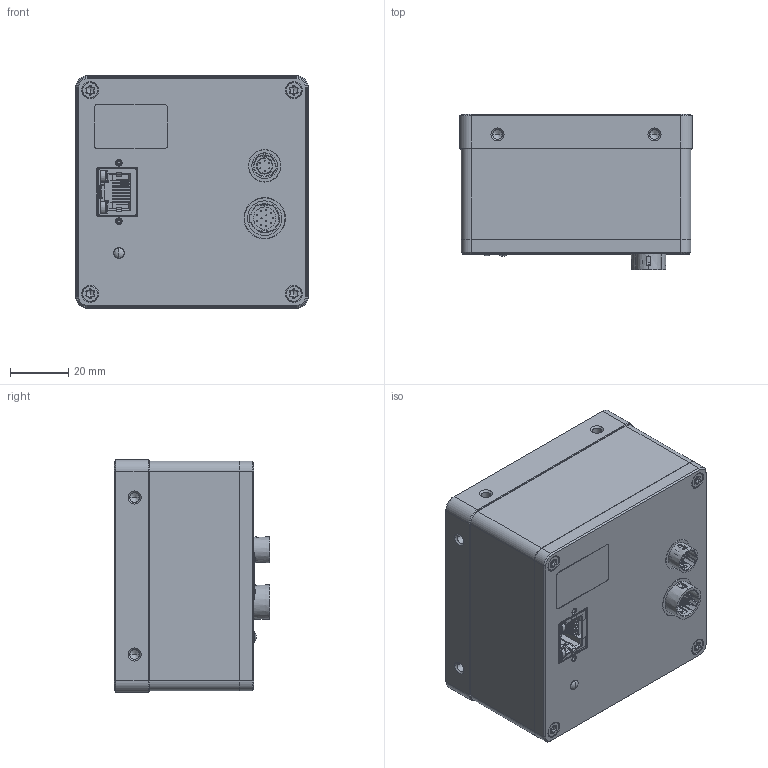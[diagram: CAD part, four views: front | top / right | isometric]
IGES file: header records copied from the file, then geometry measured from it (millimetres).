
Start section:  PTC IGES file: 0-dh3-2198-0005_sw0002.igs
Global section: file name: 0-dh3-2198-0005_sw0002.igs; native system: Creo Parametric by PTC Inc.; preprocessor: 2020184; author: 303992; organization: Unknown; date: 20231219.204026; units: millimetre
Bounding box: 80 x 53.5 x 80 mm (x, y, z)
Volume: 270878.8 mm3; surface area: 37258.8 mm2
Topology: 1 solids, 1 shells, 1858 faces, 5281 edges, 3358 vertices
Faces by surface type: bspline 1117, revolution 741
